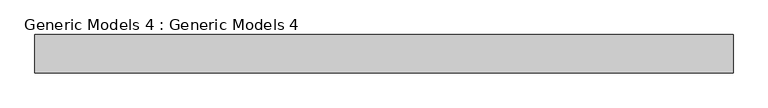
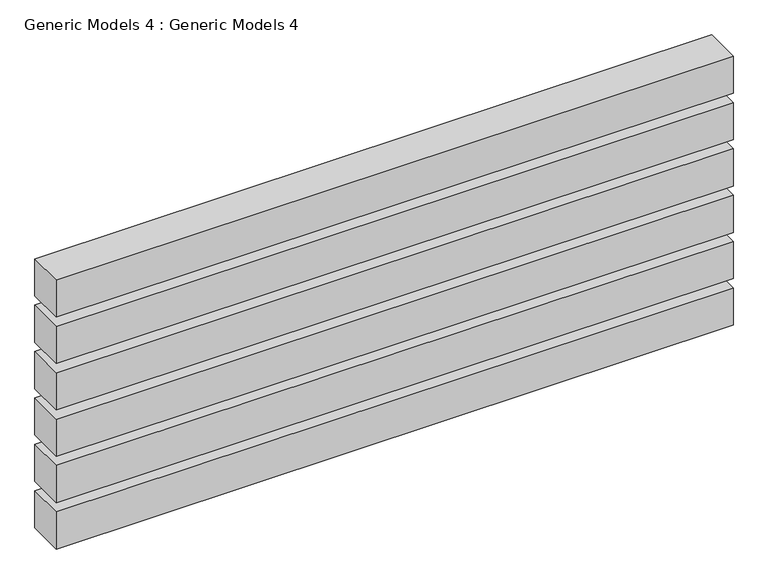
"""IFC4 building model written with IfcOpenShell, lengths in millimetres: proxy geometry, Generic Models 4 : Generic Models 4."""

from ifc_helpers import new_model, si_unit, frame, origin, place, context, project, spatial, polyline, outline, extrude, source, transform, mapped, element, save


def generic_models_4_generic_models_4_10dda382(model_context):
    return source(origin(), model_context, "Body", "SweptSolid", [
        extrude(outline(polyline([(-7821.9502733, -4132.9830183), (-7821.9502733, -4047.6885624), (-6263.3274035, -4047.6885624), (-6263.3274035, -4132.9830183), (-7821.9502733, -4132.9830183)])), frame((0.0, 0.0, 3113.0147425), z_axis=(0.0, 0.0, 1.0), x_axis=(1.0, 0.0, 0.0)), (0.0, 0.0, 1.0), 90.4654609),
        extrude(outline(polyline([(-7821.9502733, -4132.9830183), (-7821.9502733, -4047.6885624), (-6263.3274035, -4047.6885624), (-6263.3274035, -4132.9830183), (-7821.9502733, -4132.9830183)])), frame((0.0, 0.0, 3226.029485), z_axis=(0.0, 0.0, 1.0), x_axis=(1.0, 0.0, 0.0)), (0.0, 0.0, 1.0), 90.4654609),
        extrude(outline(polyline([(-7821.9502733, -4132.9830183), (-7821.9502733, -4047.6885624), (-6263.3274035, -4047.6885624), (-6263.3274035, -4132.9830183), (-7821.9502733, -4132.9830183)])), frame((0.0, 0.0, 3339.0442274), z_axis=(0.0, 0.0, 1.0), x_axis=(1.0, 0.0, 0.0)), (0.0, 0.0, 1.0), 90.4654609),
        extrude(outline(polyline([(-7821.9502733, -4132.9830183), (-7821.9502733, -4047.6885624), (-6263.3274035, -4047.6885624), (-6263.3274035, -4132.9830183), (-7821.9502733, -4132.9830183)])), frame((0.0, 0.0, 3452.0589699), z_axis=(0.0, 0.0, 1.0), x_axis=(1.0, 0.0, 0.0)), (0.0, 0.0, 1.0), 90.4654609),
        extrude(outline(polyline([(-7821.9502733, -4132.9830183), (-7821.9502733, -4047.6885624), (-6263.3274035, -4047.6885624), (-6263.3274035, -4132.9830183), (-7821.9502733, -4132.9830183)])), frame((0.0, 0.0, 3000.0), z_axis=(0.0, 0.0, 1.0), x_axis=(1.0, 0.0, 0.0)), (0.0, 0.0, 1.0), 90.4654609),
        extrude(outline(polyline([(-7821.9502733, -4132.9830183), (-7821.9502733, -4047.6885624), (-6263.3274035, -4047.6885624), (-6263.3274035, -4132.9830183), (-7821.9502733, -4132.9830183)])), frame((0.0, 0.0, 3565.0737124), z_axis=(0.0, 0.0, 1.0), x_axis=(1.0, 0.0, 0.0)), (0.0, 0.0, 1.0), 90.4654609),
    ])


if __name__ == "__main__":
    model = new_model("IFC4")
    model_context = context("Model", 3, world=origin())
    ifc_project = project(units=[si_unit("LENGTHUNIT", "METRE", prefix="MILLI")], contexts=[model_context])
    site = spatial("IfcSite", under=ifc_project)
    building = spatial("IfcBuilding", under=site)
    placement = place(None, origin())
    generic_models_4_generic_models_4_shape = generic_models_4_generic_models_4_10dda382(model_context)
    element("IfcBuildingElementProxy", 1, Name="Generic Models 4 : Generic Models 4", ObjectType="Generic Models 4 : Generic Models 4", at=placement, inside=building, context=model_context, shape_type="MappedRepresentation", body=[
        mapped(generic_models_4_generic_models_4_shape, transform((0.0, 0.0, 0.0), x_axis=(1.0, 0.0, 0.0), y_axis=(0.0, 1.0, 0.0), z_axis=(0.0, 0.0, 1.0))),
    ])
    save(model, "model.ifc")
